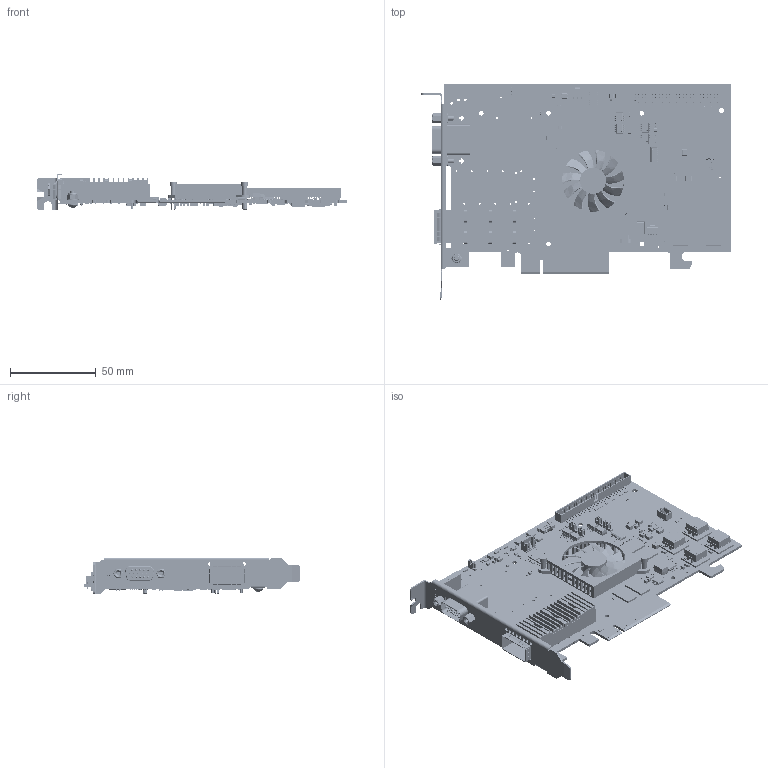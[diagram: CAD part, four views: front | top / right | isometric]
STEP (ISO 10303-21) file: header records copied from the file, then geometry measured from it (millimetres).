
FILE_DESCRIPTION( ( 'Unknown' ), '1' );
FILE_NAME( 'Q:/2003/Product3DCADModels/mm-ap20c17-0160-0101.stp', 'Unknown', ( 'Unknown' ), ( 'Unknown' ), 'PSStep 17.0.49', 'Unknown', ' ' );
FILE_SCHEMA( ( 'AUTOMOTIVE_DESIGN { 1 0 10303 214 1 1 1 1 }' ) );
Length unit declared in the file: millimetre
Products named in the file (871): Body-3; Open CASCADE STEP translator 6.8 17.2.1; Pin_Shape-1; Open CASCADE STEP translator 6.8 17.4.1; Body-1; Open CASCADE STEP translator 6.8 22.2.1; Body-2; Open CASCADE STEP translator 6.8 8.2.1; M16A_ASM_24_ASM; BODY_M16A_17; LEAD_M16A_42; L3-0862; Thermal_Shape; Pin_Shape; Open CASCADE STEP translator 6.8 22.1; L3-0801; Open CASCADE STEP translator 6.8 17.1; 6888321680; Extruded; L3-0397; User Library-SOIC127P610X343-8N_1; User Library-SOIC127P610X343-8N_2; User Library-SOIC127P610X343-8N_3; User Library-SOIC127P610X343-8N_4; User Library-SOIC127P610X343-8N_5; User Library-SOIC127P610X343-8N_6; User Library-SOIC127P610X343-8N_7; User Library-SOIC127P610X343-8N_8; User Library-SOIC127P610X343-8N_Part1; L3-0682; User Library-DRC (S-PVSON-N10)-1_DRC_Koerper; User Library-DRC (S-PVSON-N10)-1_DRC_PINS; 6888314720; 6887625184; L3-0895; ball; Open CASCADE STEP translator 6.8 8.1; L3-0127; L3-1060; Body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
Assembly tree (3536 placements, depth 5):
  Assem1
    G-023-188D
    G-054-761S
    G-085-530T  x2
    G-254-871Q
    L3-699
    L3-699
    L3-699
    L3-699
    L3-699
    L3-699
    L3-699
    L3-699
    L3-699
    L3-699
    L3-699
    L3-699
    L3-699
    L3-699
    L3-699
    L3-699
    L3-699
    L3-699
    L3-699
    L3-699
    L3-699
    L3-699
    L3-699
    L3-699
    L3-699
    L3-699
    L3-699
    L3-699
    L3-699
    L3-699
    L3-699
    L3-699
    L3-699
    L3-699
    L3-699
    L3-699
    L3-699
    L3-699
    L3-699
    L3-699
    L3-699
    L3-699
    L3-699
    L3-699
    L3-699
    L3-699
    L3-699
    L3-699
    L3-699
    L3-699
    L3-699
    L3-699
    L3-699
    L3-699
    L3-699
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Bounding box: 180.98 x 126.31 x 21.59 mm (x, y, z)
Volume: 52473.8 mm3; surface area: 89511.6 mm2
Topology: 3011 solids, 3109 shells, 32411 faces, 83012 edges, 54166 vertices
Faces by surface type: plane 26946, cylinder 3617, sphere 1482, extrusion 164, bspline 85, cone 54, torus 42, revolution 21
Full cylindrical faces by diameter (mm): 0.164 x6, 0.3 x1, 0.432 x2, 0.519 x1, 0.527 x1, 0.6 x17, 0.7 x2, 0.8 x18, 1 x32, 1.02 x2, 1.05 x24, 1.1 x4, 1.194 x2, 1.36 x2, 1.45 x1, 1.5 x10, 1.55 x4, 1.7 x4, 2 x8, 2.156 x2, 2.5 x1, 2.7 x6, 2.8 x2, 2.84 x2, 3 x7, 3.2 x6, 3.4 x1, 4.098 x1, 4.1 x2, 4.375 x1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
Entity records: 398681 total; most frequent: CARTESIAN_POINT 59811, DIRECTION 52973, ORIENTED_EDGE 46689, EDGE_CURVE 23682, VECTOR 19270, LINE 19218, AXIS2_PLACEMENT_3D 16848, VERTEX_POINT 15648
